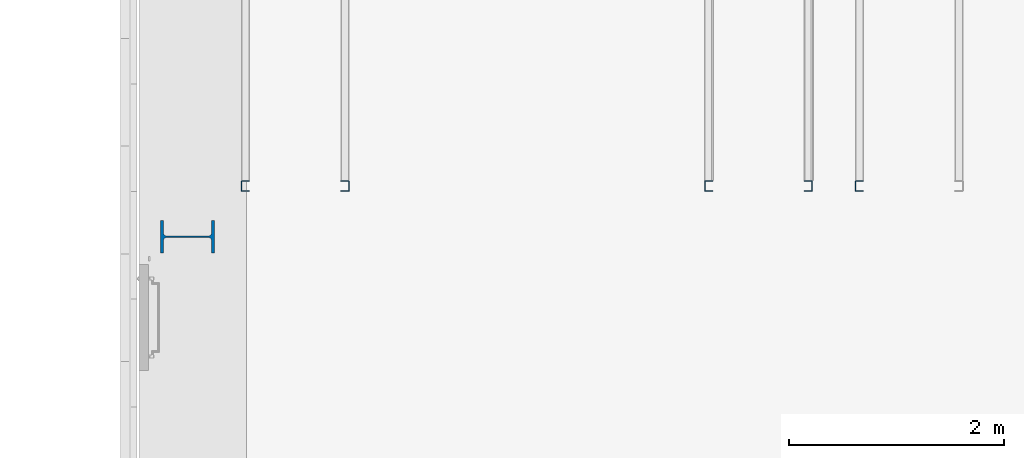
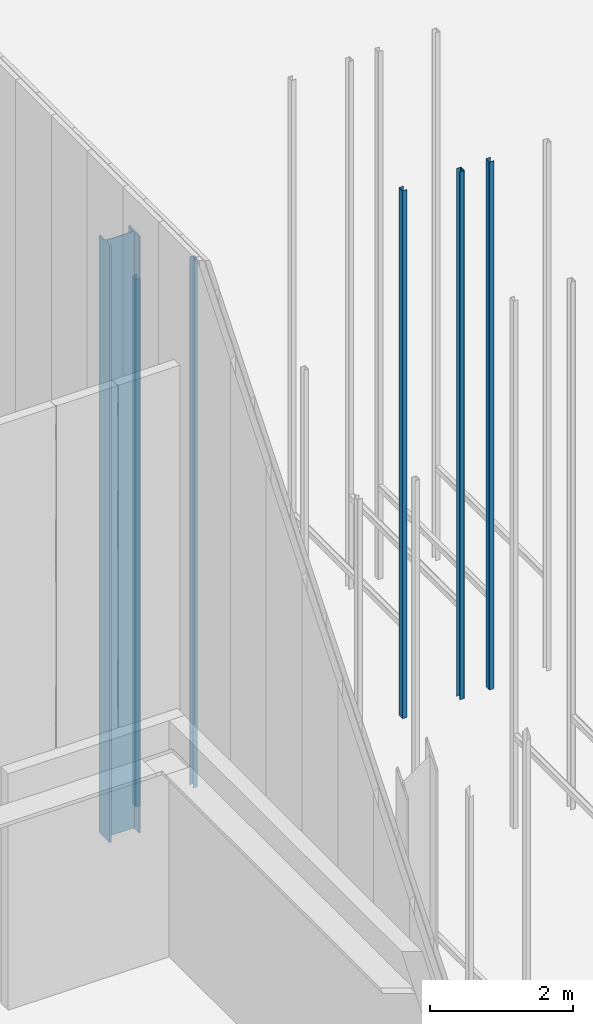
# One storey, part 33 of 302: 6 columns.
"""IFC2X3 building model written with IfcOpenShell, lengths in metres."""

from ifc_helpers import new_model, entity, si_unit, converted_unit, derived_unit, direction, frame, frame_2d, origin, place, context, subcontext, project, spatial, polyline, circle_curve, parameter, trimmed, segment, composite_curve, outline, extrude, source, transform, mapped, material, type_object, type_shapes, element, save


model = new_model("IFC2X3")

# Units and contexts
model_context = context("Model", 3, precision=1e-05, world=origin(), true_north=direction((6.12303176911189e-17, 1.0)))
body_context = subcontext(model_context, "Body", "Model", "MODEL_VIEW")
ifc_project = project(units=[si_unit("LENGTHUNIT", "METRE"), si_unit("AREAUNIT", "SQUARE_METRE"), si_unit("VOLUMEUNIT", "CUBIC_METRE"), converted_unit("PLANEANGLEUNIT", "DEGREE", entity("IfcRatioMeasure", 0.0174532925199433), si_unit("PLANEANGLEUNIT", "RADIAN"), dimensions=[0, 0, 0, 0, 0, 0, 0]), si_unit("MASSUNIT", "GRAM", prefix="KILO"), derived_unit("MASSDENSITYUNIT", [(si_unit("MASSUNIT", "GRAM", prefix="KILO"), 1), (si_unit("LENGTHUNIT", "METRE"), -3)]), derived_unit("MOMENTOFINERTIAUNIT", [(si_unit("LENGTHUNIT", "METRE"), 4)]), si_unit("TIMEUNIT", "SECOND"), si_unit("FREQUENCYUNIT", "HERTZ"), si_unit("THERMODYNAMICTEMPERATUREUNIT", "DEGREE_CELSIUS"), derived_unit("THERMALTRANSMITTANCEUNIT", [(si_unit("MASSUNIT", "GRAM", prefix="KILO"), 1), (si_unit("THERMODYNAMICTEMPERATUREUNIT", "KELVIN"), -1), (si_unit("TIMEUNIT", "SECOND"), -3)]), derived_unit("VOLUMETRICFLOWRATEUNIT", [(si_unit("LENGTHUNIT", "METRE"), 3), (si_unit("TIMEUNIT", "SECOND"), -1)]), si_unit("ELECTRICCURRENTUNIT", "AMPERE"), si_unit("ELECTRICVOLTAGEUNIT", "VOLT"), si_unit("POWERUNIT", "WATT"), si_unit("FORCEUNIT", "NEWTON", prefix="KILO"), si_unit("ILLUMINANCEUNIT", "LUX"), si_unit("LUMINOUSFLUXUNIT", "LUMEN"), si_unit("LUMINOUSINTENSITYUNIT", "CANDELA"), derived_unit("USERDEFINED", [(si_unit("MASSUNIT", "GRAM", prefix="KILO"), -1), (si_unit("LENGTHUNIT", "METRE"), -2), (si_unit("TIMEUNIT", "SECOND"), 3), (si_unit("LUMINOUSFLUXUNIT", "LUMEN"), 1)]), derived_unit("LINEARVELOCITYUNIT", [(si_unit("LENGTHUNIT", "METRE"), 1), (si_unit("TIMEUNIT", "SECOND"), -1)]), si_unit("PRESSUREUNIT", "PASCAL"), derived_unit("USERDEFINED", [(si_unit("LENGTHUNIT", "METRE"), -2), (si_unit("MASSUNIT", "GRAM", prefix="KILO"), 1), (si_unit("TIMEUNIT", "SECOND"), -2)]), derived_unit("LINEARFORCEUNIT", [(si_unit("MASSUNIT", "GRAM", prefix="KILO"), 1), (si_unit("LENGTHUNIT", "METRE"), 1), (si_unit("TIMEUNIT", "SECOND"), -2), (si_unit("LENGTHUNIT", "METRE"), -1)]), derived_unit("PLANARFORCEUNIT", [(si_unit("MASSUNIT", "GRAM", prefix="KILO"), 1), (si_unit("LENGTHUNIT", "METRE"), 1), (si_unit("TIMEUNIT", "SECOND"), -2), (si_unit("LENGTHUNIT", "METRE"), -2)])], contexts=[model_context])

# Site, building, storey
site_placement = place(None, origin())
site = spatial("IfcSite", under=ifc_project, at=site_placement, Name="Default", CompositionType="ELEMENT")
building_placement = place(site_placement, origin())
building = spatial("IfcBuilding", under=site, at=building_placement, CompositionType="ELEMENT")
storey_placement = place(building_placement, frame((0.0, 0.0, -1.3)))
storey = spatial("IfcBuildingStorey", under=building, at=storey_placement, Name="00_EG", CompositionType="ELEMENT", Elevation=-1.3)

# Columns
ifc_material = material(Name="Metall - Baustahl S235")
column_type_1 = type_object("IfcColumnType", Name="HEB Stütze:HEB 500", PredefinedType="COLUMN", material=ifc_material)
shared_shape_1 = source(origin(), body_context, "Body", "SweptSolid", [
    extrude(outline(composite_curve([segment(polyline([(0.222, -0.15), (0.25, -0.15)]), True, "CONTINUOUS"), segment(polyline([(0.25, -0.15), (0.25, 0.15)]), True, "CONTINUOUS"), segment(polyline([(0.25, 0.15), (0.222, 0.15)]), True, "CONTINUOUS"), segment(polyline([(0.222, 0.15), (0.222, 0.0342500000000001)]), True, "CONTINUOUS"), segment(trimmed(circle_curve(frame_2d((0.195, 0.0342500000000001), x_axis=(1.0, 0.0)), 0.0270000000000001), [parameter(270.0)], [parameter(0.0)], True, "PARAMETER"), False, "CONTINUOUS"), segment(polyline([(0.195, 0.00724999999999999), (-0.195, 0.00724999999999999)]), True, "CONTINUOUS"), segment(trimmed(circle_curve(frame_2d((-0.195, 0.03425), x_axis=(0.0, -1.0)), 0.027), [parameter(270.0)], [parameter(0.0)], True, "PARAMETER"), False, "CONTINUOUS"), segment(polyline([(-0.222, 0.0342500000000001), (-0.222, 0.15)]), True, "CONTINUOUS"), segment(polyline([(-0.222, 0.15), (-0.25, 0.15)]), True, "CONTINUOUS"), segment(polyline([(-0.25, 0.15), (-0.25, -0.15)]), True, "CONTINUOUS"), segment(polyline([(-0.25, -0.15), (-0.222, -0.15)]), True, "CONTINUOUS"), segment(polyline([(-0.222, -0.15), (-0.222, -0.03425)]), True, "CONTINUOUS"), segment(trimmed(circle_curve(frame_2d((-0.195, -0.03425), x_axis=(-1.0, 0.0)), 0.027), [parameter(269.999999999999)], [parameter(0.0)], True, "PARAMETER"), False, "CONTINUOUS"), segment(polyline([(-0.195, -0.00724999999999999), (0.195, -0.00724999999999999)]), True, "CONTINUOUS"), segment(trimmed(circle_curve(frame_2d((0.195, -0.03425), x_axis=(0.0, 1.0)), 0.027), [parameter(270.0)], [parameter(0.0)], True, "PARAMETER"), False, "CONTINUOUS"), segment(polyline([(0.222, -0.0342499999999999), (0.222, -0.15)]), True, "CONTINUOUS")], self_intersect=False)), frame((0.0, 0.0, -0.0300000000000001), z_axis=(0.0, 0.0, 1.0), x_axis=(0.0, -1.0, 0.0)), (0.0, 0.0, 1.0), 10.175),
])
type_shapes(column_type_1, [shared_shape_1])
column_placement = place(storey_placement, frame((-206.990111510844, 48.328088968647, 1.3), z_axis=(0.0, 0.0, 1.0), x_axis=(0.0, -1.0, 0.0)))
element("IfcColumn", 1, at=column_placement, inside=storey, type_object=column_type_1, material=ifc_material, Name="HEB Stütze:HEB 500", ObjectType="HEB Stütze:HEB 500", context=body_context, shape_type="MappedRepresentation", body=[
    mapped(shared_shape_1, transform((0.0, 0.0, 0.0), scale=1.0)),
])
column_type_2 = type_object("IfcColumnType", Name="Leichter Stahl Schlossschrauben Stütze:C 100", PredefinedType="COLUMN", material=ifc_material)
shared_shape_2 = source(origin(), body_context, "Body", "SweptSolid", [
    extrude(outline(composite_curve([segment(polyline([(-0.0469749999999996, -0.0499999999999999), (0.0214500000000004, -0.0499999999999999)]), True, "CONTINUOUS"), segment(trimmed(circle_curve(frame_2d((0.0214500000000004, -0.0434249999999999), x_axis=(0.0, -1.0)), 0.00657500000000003), [parameter(0.0)], [parameter(89.9999999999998)], True, "PARAMETER"), True, "CONTINUOUS"), segment(polyline([(0.0280250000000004, -0.0434249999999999), (0.0280250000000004, 0.0434250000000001)]), True, "CONTINUOUS"), segment(trimmed(circle_curve(frame_2d((0.0214500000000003, 0.0434250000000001), x_axis=(1.0, 0.0)), 0.0065750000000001), [parameter(0.0)], [parameter(89.9999999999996)], True, "PARAMETER"), True, "CONTINUOUS"), segment(polyline([(0.0214500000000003, 0.0500000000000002), (-0.0469750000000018, 0.0500000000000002)]), True, "CONTINUOUS"), segment(polyline([(-0.0469750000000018, 0.0500000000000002), (-0.0469750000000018, 0.0450000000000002)]), True, "CONTINUOUS"), segment(polyline([(-0.0469750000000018, 0.0450000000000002), (0.0214500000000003, 0.0450000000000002)]), True, "CONTINUOUS"), segment(trimmed(circle_curve(frame_2d((0.0214500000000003, 0.0434249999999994), x_axis=(0.0, 1.0)), 0.00157500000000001), [parameter(269.999999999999)], [parameter(0.0)], True, "PARAMETER"), False, "CONTINUOUS"), segment(polyline([(0.0230250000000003, 0.0434249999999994), (0.0230250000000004, -0.0434249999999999)]), True, "CONTINUOUS"), segment(trimmed(circle_curve(frame_2d((0.0214500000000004, -0.0434249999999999), x_axis=(1.0, 0.0)), 0.00157500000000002), [parameter(270.0)], [parameter(0.0)], True, "PARAMETER"), False, "CONTINUOUS"), segment(polyline([(0.0214500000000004, -0.0449999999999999), (-0.0469749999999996, -0.0449999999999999)]), True, "CONTINUOUS"), segment(polyline([(-0.0469749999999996, -0.0449999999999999), (-0.0469749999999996, -0.0499999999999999)]), True, "CONTINUOUS")], self_intersect=False)), frame((0.0499999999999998, 0.0280250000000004, -0.0300000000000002), z_axis=(0.0, 0.0, 1.0), x_axis=(0.0, -1.0, 0.0)), (0.0, 0.0, 1.0), 9.0),
])
type_shapes(column_type_2, [shared_shape_2])
for number, where, z_axis, x_axis in (
    (2, (-200.790111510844, 48.848088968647, 1.3), (0.0, 0.0, 1.0), (0.0, -1.0, 0.0)),
    (3, (-202.190111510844, 48.848088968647, 1.3), (0.0, 0.0, 1.0), (0.0, -1.0, 0.0)),
    (4, (-206.490111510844, 48.848088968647, 1.3), (0.0, 0.0, 1.0), (0.0, -1.0, 0.0)),
):
    element("IfcColumn", number, at=place(storey_placement, frame(where, z_axis=z_axis, x_axis=x_axis)), inside=storey, type_object=column_type_2, material=ifc_material, Name="Leichter Stahl Schlossschrauben Stütze:C 100", ObjectType="Leichter Stahl Schlossschrauben Stütze:C 100", context=body_context, shape_type="MappedRepresentation", body=[
        mapped(shared_shape_2, transform((0.0, 0.0, 0.0), scale=1.0)),
    ])
column_type_3 = type_object("IfcColumnType", Name="Leichter Stahl Schlossschrauben Stütze:C 100", PredefinedType="COLUMN", material=ifc_material)
shared_shape_3 = source(origin(), body_context, "Body", "SweptSolid", [
    extrude(outline(composite_curve([segment(polyline([(-0.0214500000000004, -0.0499999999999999), (0.0469749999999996, -0.0499999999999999)]), True, "CONTINUOUS"), segment(polyline([(0.0469749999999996, -0.0499999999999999), (0.0469749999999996, -0.0449999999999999)]), True, "CONTINUOUS"), segment(polyline([(0.0469749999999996, -0.0449999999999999), (-0.0214500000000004, -0.045)]), True, "CONTINUOUS"), segment(trimmed(circle_curve(frame_2d((-0.0214500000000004, -0.043425), x_axis=(0.0, -1.0)), 0.00157500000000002), [parameter(270.0)], [parameter(0.0)], True, "PARAMETER"), False, "CONTINUOUS"), segment(polyline([(-0.0230250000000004, -0.0434249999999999), (-0.0230250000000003, 0.0434249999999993)]), True, "CONTINUOUS"), segment(trimmed(circle_curve(frame_2d((-0.0214500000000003, 0.0434249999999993), x_axis=(-1.0, 0.0)), 0.00157500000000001), [parameter(269.999999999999)], [parameter(0.0)], True, "PARAMETER"), False, "CONTINUOUS"), segment(polyline([(-0.0214500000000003, 0.0450000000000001), (0.0469750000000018, 0.0450000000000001)]), True, "CONTINUOUS"), segment(polyline([(0.0469750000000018, 0.0450000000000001), (0.0469750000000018, 0.0500000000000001)]), True, "CONTINUOUS"), segment(polyline([(0.0469750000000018, 0.0500000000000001), (-0.0214500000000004, 0.0500000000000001)]), True, "CONTINUOUS"), segment(trimmed(circle_curve(frame_2d((-0.0214500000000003, 0.043425), x_axis=(0.0, 1.0)), 0.0065750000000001), [parameter(0.0)], [parameter(89.9999999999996)], True, "PARAMETER"), True, "CONTINUOUS"), segment(polyline([(-0.0280250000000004, 0.043425), (-0.0280250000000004, -0.043425)]), True, "CONTINUOUS"), segment(trimmed(circle_curve(frame_2d((-0.0214500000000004, -0.0434249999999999), x_axis=(-1.0, 0.0)), 0.00657500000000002), [parameter(0.0)], [parameter(89.9999999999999)], True, "PARAMETER"), True, "CONTINUOUS")], self_intersect=False)), frame((0.0499999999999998, -0.0280250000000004, -0.0300000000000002), z_axis=(0.0, 0.0, 1.0), x_axis=(0.0, -1.0, 0.0)), (0.0, 0.0, 1.0), 9.0),
])
type_shapes(column_type_3, [shared_shape_3])
for number, where, z_axis, x_axis in (
    (5, (-201.190111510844, 48.848088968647, 1.3), (0.0, 0.0, 1.0), (0.0, -1.0, 0.0)),
    (6, (-205.490111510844, 48.848088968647, 1.3), (0.0, 0.0, 1.0), (0.0, -1.0, 0.0)),
):
    element("IfcColumn", number, at=place(storey_placement, frame(where, z_axis=z_axis, x_axis=x_axis)), inside=storey, type_object=column_type_3, material=ifc_material, Name="Leichter Stahl Schlossschrauben Stütze:C 100", ObjectType="Leichter Stahl Schlossschrauben Stütze:C 100", context=body_context, shape_type="MappedRepresentation", body=[
        mapped(shared_shape_3, transform((0.0, 0.0, 0.0), scale=1.0)),
    ])

save(model, "model.ifc")
